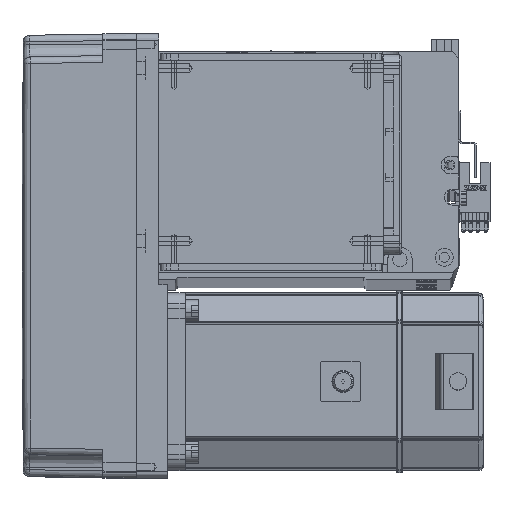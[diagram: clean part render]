
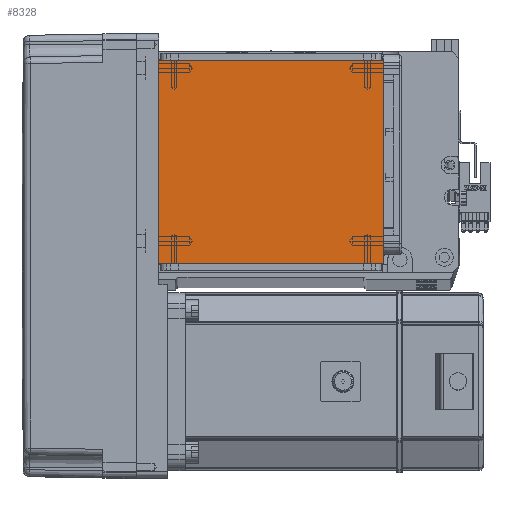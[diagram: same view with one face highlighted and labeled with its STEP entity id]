
A CAD part, top view. The second image highlights one B-rep face of the part: STEP entity #8328.
In plain terms, the highlighted planar face has unit normal (0, 0, 1).
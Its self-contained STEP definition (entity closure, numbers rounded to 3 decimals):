
#8328 = ADVANCED_FACE ( 'NONE', ( #60835 ), #32227, .T. ) ;
#15128 = VECTOR ( 'NONE', #24595, 1000. ) ;
#15429 = LINE ( 'NONE', #36197, #49736 ) ;
#17722 = VERTEX_POINT ( 'NONE', #25474 ) ;
#21183 = LINE ( 'NONE', #46478, #59288 ) ;
#21699 = CARTESIAN_POINT ( 'NONE',  ( -70.004, 20., 115. ) ) ;
#24264 = CARTESIAN_POINT ( 'NONE',  ( 50.5, 111.5, 115. ) ) ;
#24595 = DIRECTION ( 'NONE',  ( 0., -1., 0. ) ) ;
#25178 = EDGE_CURVE ( 'NONE', #17722, #42529, #21183, .T. ) ;
#25474 = CARTESIAN_POINT ( 'NONE',  ( -50.5, 111.5, 115. ) ) ;
#26895 = DIRECTION ( 'NONE',  ( -1., 0., 0. ) ) ;
#29021 = EDGE_LOOP ( 'NONE', ( #50204, #43738, #57108, #42333 ) ) ;
#30167 = CARTESIAN_POINT ( 'NONE',  ( -50.5, 20., 115. ) ) ;
#31882 = VECTOR ( 'NONE', #26895, 1000. ) ;
#32227 = PLANE ( 'NONE',  #63159 ) ;
#33191 = VERTEX_POINT ( 'NONE', #30167 ) ;
#33322 = EDGE_CURVE ( 'NONE', #48333, #42529, #15429, .T. ) ;
#35548 = DIRECTION ( 'NONE',  ( 0., 1., 0. ) ) ;
#35912 = EDGE_CURVE ( 'NONE', #17722, #33191, #47009, .T. ) ;
#36197 = CARTESIAN_POINT ( 'NONE',  ( 50.5, 122., 115. ) ) ;
#36208 = DIRECTION ( 'NONE',  ( 1., 0., 0. ) ) ;
#36788 = DIRECTION ( 'NONE',  ( 0., 0., 1. ) ) ;
#37905 = CARTESIAN_POINT ( 'NONE',  ( 50.5, 20., 115. ) ) ;
#42333 = ORIENTED_EDGE ( 'NONE', *, *, #33322, .T. ) ;
#42529 = VERTEX_POINT ( 'NONE', #24264 ) ;
#43738 = ORIENTED_EDGE ( 'NONE', *, *, #35912, .T. ) ;
#44407 = LINE ( 'NONE', #21699, #31882 ) ;
#46478 = CARTESIAN_POINT ( 'NONE',  ( -70.004, 111.5, 115. ) ) ;
#47009 = LINE ( 'NONE', #49011, #15128 ) ;
#47674 = EDGE_CURVE ( 'NONE', #48333, #33191, #44407, .T. ) ;
#48333 = VERTEX_POINT ( 'NONE', #37905 ) ;
#49011 = CARTESIAN_POINT ( 'NONE',  ( -50.5, 122., 115. ) ) ;
#49736 = VECTOR ( 'NONE', #35548, 1000. ) ;
#50204 = ORIENTED_EDGE ( 'NONE', *, *, #25178, .F. ) ;
#51850 = DIRECTION ( 'NONE',  ( 1., 0., 0. ) ) ;
#57017 = CARTESIAN_POINT ( 'NONE',  ( 0., 0., 115. ) ) ;
#57108 = ORIENTED_EDGE ( 'NONE', *, *, #47674, .F. ) ;
#59288 = VECTOR ( 'NONE', #36208, 1000. ) ;
#60835 = FACE_OUTER_BOUND ( 'NONE', #29021, .T. ) ;
#63159 = AXIS2_PLACEMENT_3D ( 'NONE', #57017, #36788, #51850 ) ;
